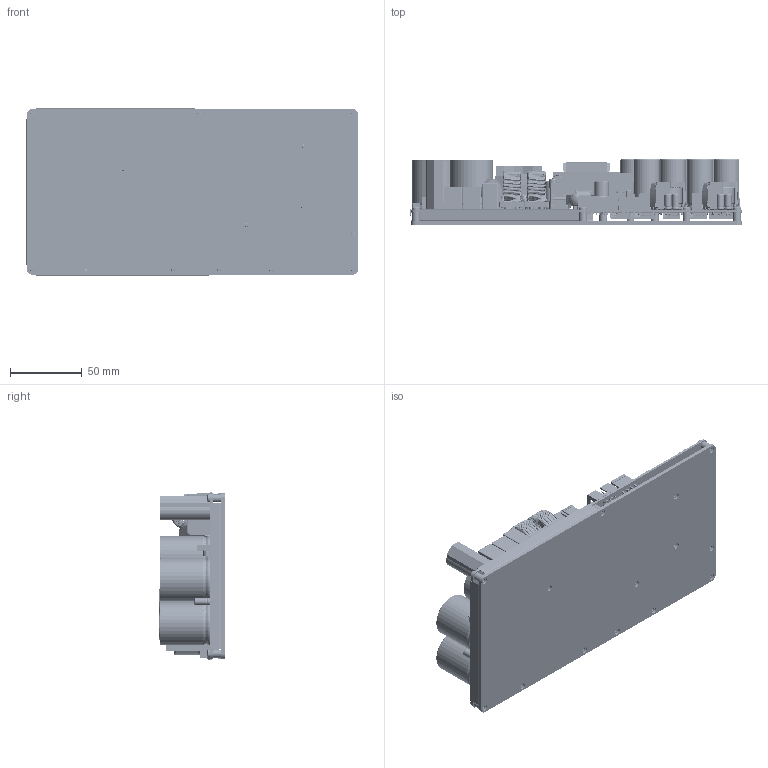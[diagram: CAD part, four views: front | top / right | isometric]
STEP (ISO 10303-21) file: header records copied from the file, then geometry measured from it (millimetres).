
FILE_DESCRIPTION (( 'STEP AP214' ), '1' );
FILE_NAME ('NC502MP 04xx.STEP', '2020-10-22T11:12:03', ( '' ), ( '' ), 'SwSTEP 2.0', 'SolidWorks 2017', '' );
FILE_SCHEMA (( 'AUTOMOTIVE_DESIGN' ));
Length unit declared in the file: millimetre
Products named in the file (7): NC502MP Insulation Plate; spacer 6mm; NC502MP 04xx; M3x0_5xL Phillips Panhead Screw_6mm; Hsink SAA23L15W0H2T2; NC502MP_B16
Assembly tree (32 placements, depth 3):
  NC502MP 04xx
    Hsink SAA23L15W0H2T2
      Hsink SAA23L15W0H2T2
      spacer 6mm  x14
    NC502MP_B16
    NC502MP Insulation Plate
    M3x0_5xL Phillips Panhead Screw_6mm  x14
Bounding box: 230.66 x 45.6 x 116.33 mm (x, y, z)
Volume: 73766.4 mm3; surface area: 296525.8 mm2
Topology: 30 solids, 278 shells, 14002 faces, 33553 edges, 19713 vertices
Faces by surface type: plane 4722, bspline 4683, cylinder 4143, torus 196, sphere 188, cone 70
Entity records: 726045 total; most frequent: CARTESIAN_POINT 301696, ORIENTED_EDGE 61116, DIRECTION 51901, EDGE_CURVE 30578, AXIS2_PLACEMENT_3D 18652, VERTEX_POINT 18351, EDGE_LOOP 14605, VECTOR 14597
